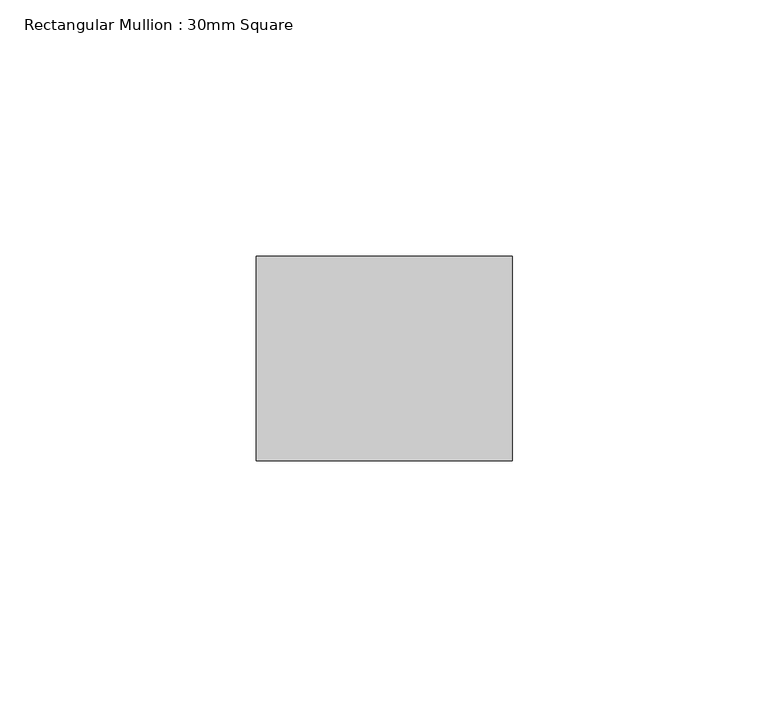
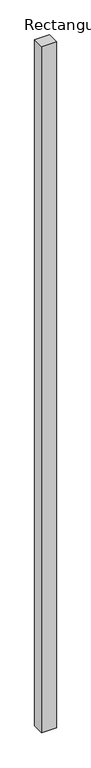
"""IFC4 building model written with IfcOpenShell, lengths in millimetres: member geometry, Rectangular Mullion : 30mm Square."""

import ifcopenshell
import ifcopenshell.guid

model = None  # the IFC model being written
_history = None  # IfcOwnerHistory: only IFC2X3 demands one
_inside = {}  # id of a spatial element -> (the spatial element, [elements in it])
_under = {}  # id of a project, library or spatial element -> (it, [spatial elements below it])
_declared = {}  # id of a project -> (the project, [libraries it declares])
_typed = {}  # id of a type object -> (the type object, [elements of that type])
_made_of = {}  # id of a material, layer set ... -> (it, [elements and type objects made of it])


def new_model(schema):
    """Start an empty IFC model of exactly this schema.

    Asked for "IFC4X3", IfcOpenShell would pick the latest addendum, in which some entities
    have other attributes; the version numbers below select the first issue.
    IFC2X3 requires an IfcOwnerHistory on every rooted entity: one is made here for all.
    """
    global model, _history
    if schema == "IFC4X3":
        model = ifcopenshell.file(schema_version=(4, 3, 0, 0))
    else:
        model = ifcopenshell.file(schema=schema)
    _inside.clear()
    _under.clear()
    _declared.clear()
    _typed.clear()
    _made_of.clear()
    _history = None
    if model.schema == "IFC2X3":
        org = make("IfcOrganization", Name="unknown")
        user = make(
            "IfcPersonAndOrganization",
            ThePerson=make("IfcPerson", FamilyName="unknown"),
            TheOrganization=org,
        )
        app = make(
            "IfcApplication",
            ApplicationDeveloper=org,
            Version="unknown",
            ApplicationFullName="unknown",
            ApplicationIdentifier="unknown",
        )
        _history = make(
            "IfcOwnerHistory",
            OwningUser=user,
            OwningApplication=app,
            ChangeAction="ADDED",
            CreationDate=0,
        )
    return model


def make(cls, **values):
    """One entity of the class cls with the attributes given. An attribute that is None is left unset."""
    return model.create_entity(
        cls, **{name: value for name, value in values.items() if value is not None}
    )


def rooted(cls, **values):
    """An entity with a GlobalId (a new one), such as an element, a storey or a relation."""
    return make(cls, GlobalId=ifcopenshell.guid.new(), OwnerHistory=_history, **values)


def si_unit(unit_type, name, prefix=None):
    """IfcSIUnit, for example si_unit("LENGTHUNIT", "METRE", prefix="MILLI")."""
    return make("IfcSIUnit", UnitType=unit_type, Prefix=prefix, Name=name)


def assignment(units):
    """IfcUnitAssignment: the units of a project."""
    return None if units is None else make("IfcUnitAssignment", Units=units)


def point(xyz):
    """IfcCartesianPoint."""
    return None if xyz is None else make("IfcCartesianPoint", Coordinates=xyz)


def direction(xyz):
    """IfcDirection."""
    return None if xyz is None else make("IfcDirection", DirectionRatios=xyz)


def frame(location, z_axis=None, x_axis=None):
    """IfcAxis2Placement3D, a coordinate frame: its origin and axes. An axis left out is left unset."""
    return make(
        "IfcAxis2Placement3D",
        Location=point(location),
        Axis=direction(z_axis),
        RefDirection=direction(x_axis),
    )


def origin():
    """The frame at (0, 0, 0) with its axes left unset."""
    return frame((0.0, 0.0, 0.0))


def place(relative_to, where):
    """IfcLocalPlacement: puts the frame where relative to a parent placement (None: the world)."""
    return make(
        "IfcLocalPlacement", PlacementRelTo=relative_to, RelativePlacement=where
    )


def context(
    kind, dimensions, precision=None, world=None, true_north=None, identifier=None
):
    """IfcGeometricRepresentationContext, for example the 3D "Model" context."""
    return make(
        "IfcGeometricRepresentationContext",
        ContextIdentifier=identifier,
        ContextType=kind,
        CoordinateSpaceDimension=dimensions,
        Precision=precision,
        WorldCoordinateSystem=world,
        TrueNorth=true_north,
    )


def project(units=None, contexts=None):
    """IfcProject with its units and contexts."""
    return rooted(
        "IfcProject",
        Name="project",
        RepresentationContexts=contexts,
        UnitsInContext=assignment(units),
    )


def spatial(cls, under=None, at=None, **own):
    """A site, building, storey or space (cls), placed at a placement, below another one or the project."""
    s = rooted(cls, ObjectPlacement=at, **own)
    if under is not None:
        _under.setdefault(under.id(), (under, []))[1].append(s)
    return s


def polyline(points):
    """IfcPolyline through the points."""
    return make("IfcPolyline", Points=[point(p) for p in points])


def outline(outer, holes=None, kind="AREA"):
    """IfcArbitraryClosedProfileDef: a profile drawn as a closed curve; with holes, ...WithVoids."""
    if holes is None:
        return make("IfcArbitraryClosedProfileDef", ProfileType=kind, OuterCurve=outer)
    return make(
        "IfcArbitraryProfileDefWithVoids",
        ProfileType=kind,
        OuterCurve=outer,
        InnerCurves=holes,
    )


def extrude(swept, where, along, depth):
    """IfcExtrudedAreaSolid: the profile swept, set in the frame where, extruded along a direction by depth."""
    return make(
        "IfcExtrudedAreaSolid",
        SweptArea=swept,
        Position=where,
        ExtrudedDirection=direction(along),
        Depth=depth,
    )


def shape(context_of_items, identifier, shape_type, items):
    """IfcShapeRepresentation: the items that make up one representation, for example the "Body"."""
    return make(
        "IfcShapeRepresentation",
        ContextOfItems=context_of_items,
        RepresentationIdentifier=identifier,
        RepresentationType=shape_type,
        Items=items,
    )


def source(mapping_origin, context_of_items, identifier, shape_type, items):
    """IfcRepresentationMap: a shape defined once, which mapped items show again and again."""
    return make(
        "IfcRepresentationMap",
        MappingOrigin=mapping_origin,
        MappedRepresentation=shape(context_of_items, identifier, shape_type, items),
    )


def transform(
    local_origin,
    x_axis=None,
    y_axis=None,
    z_axis=None,
    scale=None,
    scale2=None,
    scale3=None,
    uniform=True,
):
    """IfcCartesianTransformationOperator3D, or its non-uniform kind. x_axis, y_axis, z_axis: its Axis1, 2, 3."""
    if uniform:
        return make(
            "IfcCartesianTransformationOperator3D",
            Axis1=direction(x_axis),
            Axis2=direction(y_axis),
            LocalOrigin=point(local_origin),
            Scale=scale,
            Axis3=direction(z_axis),
        )
    return make(
        "IfcCartesianTransformationOperator3DnonUniform",
        Axis1=direction(x_axis),
        Axis2=direction(y_axis),
        LocalOrigin=point(local_origin),
        Scale=scale,
        Axis3=direction(z_axis),
        Scale2=scale2,
        Scale3=scale3,
    )


def mapped(mapping_source, mapping_target):
    """IfcMappedItem: shows the shape of a source again, moved by a transform."""
    return make(
        "IfcMappedItem", MappingSource=mapping_source, MappingTarget=mapping_target
    )


def made_of(thing, what):
    """Note that an element or type object is made of a material, layer set ...; save() writes the relation."""
    if what is not None:
        _made_of.setdefault(what.id(), (what, []))[1].append(thing)
    return thing


def element(
    cls,
    number,
    at=None,
    inside=None,
    cuts=None,
    type_object=None,
    material=None,
    context=None,
    identifier="Body",
    shape_type=None,
    held_by="IfcProductDefinitionShape",
    body=None,
    shapes=None,
    **own,
):
    """One element of the class cls, such as IfcWall. Its Tag is "e" and its number.

    at: its placement. inside: the storey or other place that contains it. cuts: it is an
    opening in that element (IfcRelVoidsElement). A single representation is given by context,
    identifier, shape_type and body (its items); several are given by shapes. held_by: the class
    of the entity that holds the representations. save() writes the other relations.
    """
    e = rooted(cls, Tag="e%d" % number, ObjectPlacement=at, **own)
    if body is not None:
        shapes = [shape(context, identifier, shape_type, body)]
    if shapes is not None:
        e.Representation = make(held_by, Representations=shapes)
    if inside is not None:
        _inside.setdefault(inside.id(), (inside, []))[1].append(e)
    if cuts is not None:
        rooted(
            "IfcRelVoidsElement", RelatingBuildingElement=cuts, RelatedOpeningElement=e
        )
    if type_object is not None:
        _typed.setdefault(type_object.id(), (type_object, []))[1].append(e)
    return made_of(e, material)


def aggregate(whole, parts):
    """IfcRelAggregates: a whole, such as a stair, and the parts it consists of."""
    return rooted("IfcRelAggregates", RelatingObject=whole, RelatedObjects=parts)


def save(model, path):
    """Write the relations noted so far, then the file.

    IfcRelAggregates (storeys below a building ...), IfcRelContainedInSpatialStructure (elements
    in a storey), IfcRelDefinesByType, IfcRelAssociatesMaterial and IfcRelDeclares: one each for
    every whole, place, type object, material and project.
    """
    for whole, parts in _under.values():
        aggregate(whole, parts)
    for where, things in _inside.values():
        rooted(
            "IfcRelContainedInSpatialStructure",
            RelatedElements=things,
            RelatingStructure=where,
        )
    for kind, things in _typed.values():
        rooted("IfcRelDefinesByType", RelatedObjects=things, RelatingType=kind)
    for what, things in _made_of.values():
        rooted("IfcRelAssociatesMaterial", RelatedObjects=things, RelatingMaterial=what)
    for by, libraries in _declared.values():
        rooted("IfcRelDeclares", RelatingContext=by, RelatedDefinitions=libraries)
    model.write(path)


def rectangular_mullion_30mm_square_1da41586(model_context):
    return source(origin(), model_context, "Body", "SweptSolid", [
        extrude(outline(polyline([(0.0, 20.0), (0.0, -20.0), (-50.0, -20.0), (-50.0, 20.0), (0.0, 20.0)])), frame((0.0, 0.0, -2450.0), z_axis=(0.0, 0.0, 1.0), x_axis=(1.0, 0.0, 0.0)), (0.0, 0.0, 1.0), 2450.0),
    ])


if __name__ == "__main__":
    model = new_model("IFC4")
    model_context = context("Model", 3, world=origin())
    ifc_project = project(units=[si_unit("LENGTHUNIT", "METRE", prefix="MILLI")], contexts=[model_context])
    site = spatial("IfcSite", under=ifc_project)
    building = spatial("IfcBuilding", under=site)
    placement = place(None, origin())
    rectangular_mullion_30mm_square_shape = rectangular_mullion_30mm_square_1da41586(model_context)
    element("IfcMember", 1, ObjectType="Rectangular Mullion : 30mm Square", at=placement, inside=building, context=model_context, shape_type="MappedRepresentation", body=[
        mapped(rectangular_mullion_30mm_square_shape, transform((0.0, 0.0, 0.0), x_axis=(1.0, 0.0, 0.0), y_axis=(0.0, 1.0, 0.0), z_axis=(0.0, 0.0, 1.0))),
    ])
    save(model, "model.ifc")
